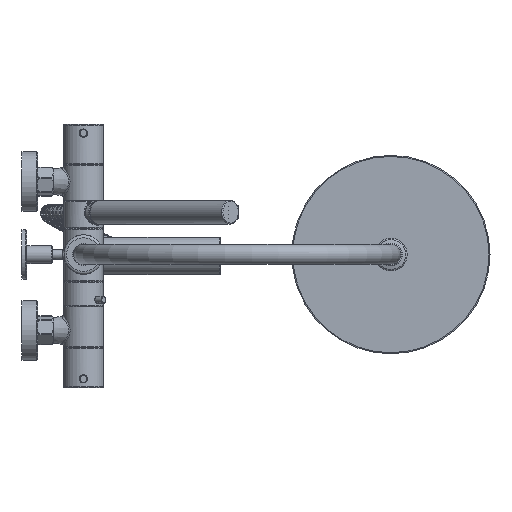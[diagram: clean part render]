
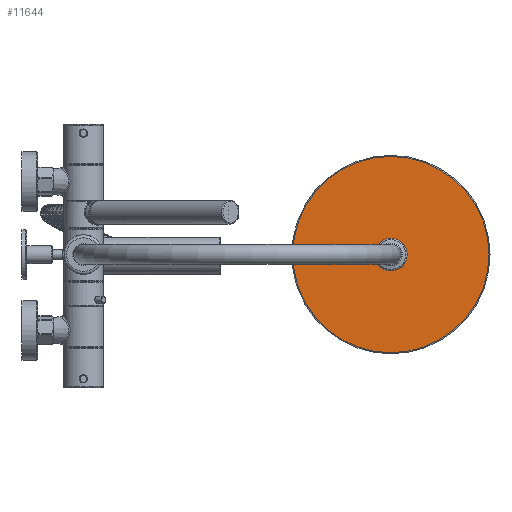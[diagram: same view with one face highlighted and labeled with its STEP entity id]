
A CAD part, top view. The second image highlights one B-rep face of the part: STEP entity #11644.
In plain terms, the highlighted planar face has unit normal (0, 0, 1).
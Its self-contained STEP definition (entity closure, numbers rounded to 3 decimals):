
#11644=ADVANCED_FACE('',(#32191,#32193),#32195,.T.);
#32191=FACE_BOUND('',#32192,.T.);
#32192=EDGE_LOOP('',(#47451));
#32193=FACE_BOUND('',#32194,.T.);
#32194=EDGE_LOOP('',(#47452));
#32195=PLANE('',#32196);
#32196=AXIS2_PLACEMENT_3D('',#32197,#32198,#32199);
#32197=CARTESIAN_POINT('',(372.,0.,822.435));
#32198=DIRECTION('',(-0.,0.,1.));
#32199=DIRECTION('',(1.,0.,0.));
#47451=ORIENTED_EDGE('',*,*,#51725,.F.);
#47452=ORIENTED_EDGE('',*,*,#51724,.T.);
#51724=EDGE_CURVE('',#55106,#55106,#55107,.T.);
#51725=EDGE_CURVE('',#55108,#55108,#55109,.T.);
#55106=VERTEX_POINT('',#64834);
#55107=CIRCLE('',#64835,16.468);
#55108=VERTEX_POINT('',#64839);
#55109=CIRCLE('',#64840,99.);
#64834=CARTESIAN_POINT('',(388.468,0.,822.435));
#64835=AXIS2_PLACEMENT_3D('',#64836,#64837,#64838);
#64836=CARTESIAN_POINT('',(372.,0.,822.435));
#64837=DIRECTION('',(0.,0.,-1.));
#64838=DIRECTION('',(1.,0.,0.));
#64839=CARTESIAN_POINT('',(471.,0.,822.435));
#64840=AXIS2_PLACEMENT_3D('',#64841,#64842,#64843);
#64841=CARTESIAN_POINT('',(372.,0.,822.435));
#64842=DIRECTION('',(0.,0.,-1.));
#64843=DIRECTION('',(1.,0.,0.));
